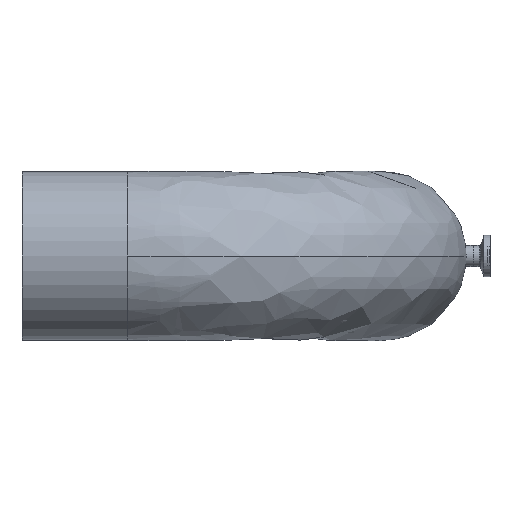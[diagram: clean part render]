
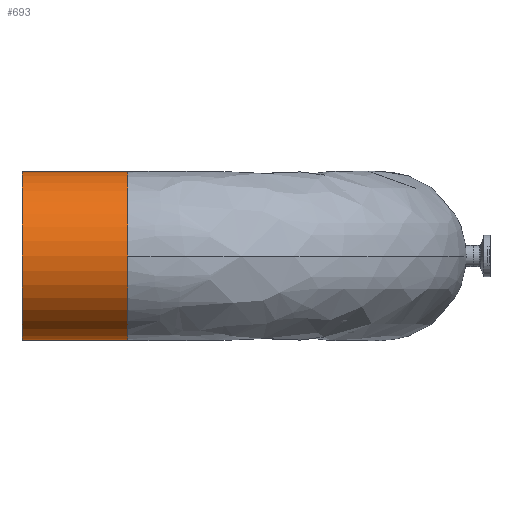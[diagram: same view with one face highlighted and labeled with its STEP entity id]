
A CAD part, left-side view. The second image highlights one B-rep face of the part: STEP entity #693.
In plain terms, the highlighted cylindrical face has radius 50.8 mm (diameter 101.6 mm), a partial arc.
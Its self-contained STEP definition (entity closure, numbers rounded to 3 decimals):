
#28 = CARTESIAN_POINT ( 'NONE',  ( -152.4, 152.4, 50.8 ) ) ;
#32 = EDGE_CURVE ( 'NONE', #306, #1374, #1402, .T. ) ;
#40 = AXIS2_PLACEMENT_3D ( 'NONE', #671, #957, #210 ) ;
#160 = DIRECTION ( 'NONE',  ( 0., -1., 0. ) ) ;
#176 = EDGE_CURVE ( 'NONE', #1374, #520, #294, .T. ) ;
#198 = AXIS2_PLACEMENT_3D ( 'NONE', #1071, #160, #1349 ) ;
#210 = DIRECTION ( 'NONE',  ( 0., 0., 1. ) ) ;
#293 = CARTESIAN_POINT ( 'NONE',  ( -152.4, 152.4, 50.8 ) ) ;
#294 = LINE ( 'NONE', #465, #1259 ) ;
#298 = AXIS2_PLACEMENT_3D ( 'NONE', #719, #782, #1172 ) ;
#306 = VERTEX_POINT ( 'NONE', #702 ) ;
#386 = ORIENTED_EDGE ( 'NONE', *, *, #1088, .F. ) ;
#400 = ORIENTED_EDGE ( 'NONE', *, *, #32, .F. ) ;
#465 = CARTESIAN_POINT ( 'NONE',  ( -152.4, 152.4, -50.8 ) ) ;
#500 = EDGE_CURVE ( 'NONE', #913, #520, #922, .T. ) ;
#520 = VERTEX_POINT ( 'NONE', #1610 ) ;
#608 = ORIENTED_EDGE ( 'NONE', *, *, #733, .T. ) ;
#671 = CARTESIAN_POINT ( 'NONE',  ( -152.4, 152.4, 0. ) ) ;
#687 = EDGE_LOOP ( 'NONE', ( #920, #400, #386, #608, #1026 ) ) ;
#693 = ADVANCED_FACE ( 'NONE', ( #797 ), #1562, .T. ) ;
#702 = CARTESIAN_POINT ( 'NONE',  ( -203.2, 152.4, 0. ) ) ;
#719 = CARTESIAN_POINT ( 'NONE',  ( -152.4, 215.9, 0. ) ) ;
#733 = EDGE_CURVE ( 'NONE', #1285, #913, #1103, .T. ) ;
#782 = DIRECTION ( 'NONE',  ( 0., -1., 0. ) ) ;
#797 = FACE_OUTER_BOUND ( 'NONE', #687, .T. ) ;
#877 = CARTESIAN_POINT ( 'NONE',  ( -152.4, 152.4, 0. ) ) ;
#913 = VERTEX_POINT ( 'NONE', #1047 ) ;
#920 = ORIENTED_EDGE ( 'NONE', *, *, #176, .F. ) ;
#922 = CIRCLE ( 'NONE', #298, 50.8 ) ;
#957 = DIRECTION ( 'NONE',  ( 0., 1., 0. ) ) ;
#1026 = ORIENTED_EDGE ( 'NONE', *, *, #500, .T. ) ;
#1047 = CARTESIAN_POINT ( 'NONE',  ( -152.4, 215.9, 50.8 ) ) ;
#1071 = CARTESIAN_POINT ( 'NONE',  ( -152.4, 152.4, 0. ) ) ;
#1088 = EDGE_CURVE ( 'NONE', #1285, #306, #1096, .T. ) ;
#1096 = CIRCLE ( 'NONE', #1116, 50.8 ) ;
#1103 = LINE ( 'NONE', #293, #1269 ) ;
#1116 = AXIS2_PLACEMENT_3D ( 'NONE', #877, #1492, #1505 ) ;
#1172 = DIRECTION ( 'NONE',  ( 0., 0., 1. ) ) ;
#1178 = DIRECTION ( 'NONE',  ( 0., 1., 0. ) ) ;
#1207 = CARTESIAN_POINT ( 'NONE',  ( -152.4, 152.4, -50.8 ) ) ;
#1232 = DIRECTION ( 'NONE',  ( 0., 1., 0. ) ) ;
#1259 = VECTOR ( 'NONE', #1232, 1000. ) ;
#1269 = VECTOR ( 'NONE', #1178, 1000. ) ;
#1285 = VERTEX_POINT ( 'NONE', #28 ) ;
#1349 = DIRECTION ( 'NONE',  ( -1., 0., 0. ) ) ;
#1374 = VERTEX_POINT ( 'NONE', #1207 ) ;
#1402 = CIRCLE ( 'NONE', #198, 50.8 ) ;
#1492 = DIRECTION ( 'NONE',  ( 0., -1., 0. ) ) ;
#1505 = DIRECTION ( 'NONE',  ( -1., 0., 0. ) ) ;
#1562 = CYLINDRICAL_SURFACE ( 'NONE', #40, 50.8 ) ;
#1610 = CARTESIAN_POINT ( 'NONE',  ( -152.4, 215.9, -50.8 ) ) ;
